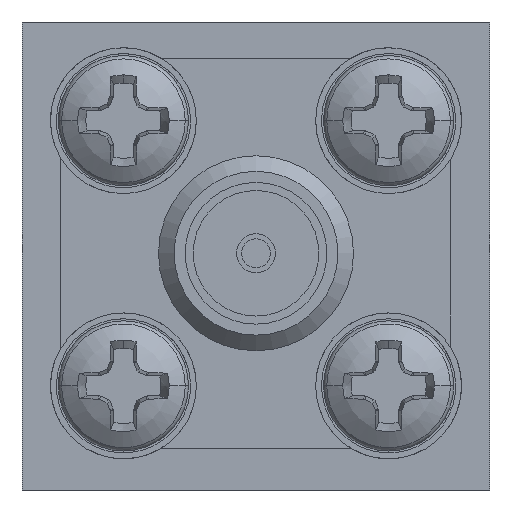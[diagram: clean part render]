
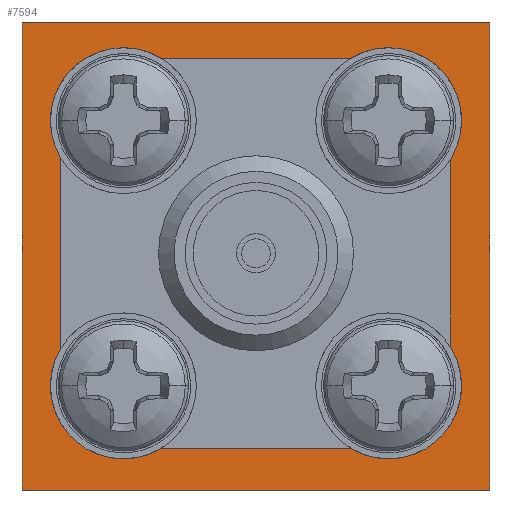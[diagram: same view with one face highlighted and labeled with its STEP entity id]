
A CAD part, left-side view. The second image highlights one B-rep face of the part: STEP entity #7594.
In plain terms, the highlighted planar face has unit normal (-1, 0, 0).
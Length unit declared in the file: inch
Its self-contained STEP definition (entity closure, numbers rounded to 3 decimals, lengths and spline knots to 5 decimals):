
#378=LINE('',#11435,#820);
#379=LINE('',#11437,#821);
#380=LINE('',#11439,#822);
#381=LINE('',#11440,#823);
#382=LINE('',#11445,#824);
#383=LINE('',#11449,#825);
#384=LINE('',#11453,#826);
#385=LINE('',#11456,#827);
#820=VECTOR('',#9052,1.);
#821=VECTOR('',#9053,1.);
#822=VECTOR('',#9054,1.);
#823=VECTOR('',#9055,1.);
#824=VECTOR('',#9058,1.);
#825=VECTOR('',#9061,1.);
#826=VECTOR('',#9064,1.);
#827=VECTOR('',#9067,1.);
#1407=FACE_BOUND('',#1884,.T.);
#1446=FACE_OUTER_BOUND('',#1883,.T.);
#1883=EDGE_LOOP('',(#4975,#4976,#4977,#4978));
#1884=EDGE_LOOP('',(#4979,#4980,#4981,#4982,#4983,#4984,#4985,#4986));
#2360=CIRCLE('',#8047,0.3125);
#2361=CIRCLE('',#8048,0.3125);
#2362=CIRCLE('',#8049,0.3125);
#2363=CIRCLE('',#8050,0.3125);
#2903=VERTEX_POINT('',#11433);
#2904=VERTEX_POINT('',#11434);
#2905=VERTEX_POINT('',#11436);
#2906=VERTEX_POINT('',#11438);
#2907=VERTEX_POINT('',#11441);
#2908=VERTEX_POINT('',#11442);
#2909=VERTEX_POINT('',#11444);
#2910=VERTEX_POINT('',#11446);
#2911=VERTEX_POINT('',#11448);
#2912=VERTEX_POINT('',#11450);
#2913=VERTEX_POINT('',#11452);
#2914=VERTEX_POINT('',#11454);
#3734=EDGE_CURVE('',#2903,#2904,#378,.T.);
#3735=EDGE_CURVE('',#2903,#2905,#379,.T.);
#3736=EDGE_CURVE('',#2906,#2905,#380,.T.);
#3737=EDGE_CURVE('',#2904,#2906,#381,.T.);
#3738=EDGE_CURVE('',#2907,#2908,#2360,.T.);
#3739=EDGE_CURVE('',#2908,#2909,#382,.T.);
#3740=EDGE_CURVE('',#2909,#2910,#2361,.T.);
#3741=EDGE_CURVE('',#2910,#2911,#383,.T.);
#3742=EDGE_CURVE('',#2911,#2912,#2362,.T.);
#3743=EDGE_CURVE('',#2912,#2913,#384,.T.);
#3744=EDGE_CURVE('',#2913,#2914,#2363,.T.);
#3745=EDGE_CURVE('',#2914,#2907,#385,.T.);
#4975=ORIENTED_EDGE('',*,*,#3734,.F.);
#4976=ORIENTED_EDGE('',*,*,#3735,.T.);
#4977=ORIENTED_EDGE('',*,*,#3736,.F.);
#4978=ORIENTED_EDGE('',*,*,#3737,.F.);
#4979=ORIENTED_EDGE('',*,*,#3738,.T.);
#4980=ORIENTED_EDGE('',*,*,#3739,.T.);
#4981=ORIENTED_EDGE('',*,*,#3740,.T.);
#4982=ORIENTED_EDGE('',*,*,#3741,.T.);
#4983=ORIENTED_EDGE('',*,*,#3742,.T.);
#4984=ORIENTED_EDGE('',*,*,#3743,.T.);
#4985=ORIENTED_EDGE('',*,*,#3744,.T.);
#4986=ORIENTED_EDGE('',*,*,#3745,.T.);
#7406=PLANE('',#8046);
#7594=ADVANCED_FACE('',(#1446,#1407),#7406,.T.);
#8046=AXIS2_PLACEMENT_3D('',#11432,#9050,#9051);
#8047=AXIS2_PLACEMENT_3D('',#11443,#9056,#9057);
#8048=AXIS2_PLACEMENT_3D('',#11447,#9059,#9060);
#8049=AXIS2_PLACEMENT_3D('',#11451,#9062,#9063);
#8050=AXIS2_PLACEMENT_3D('',#11455,#9065,#9066);
#9050=DIRECTION('center_axis',(-1.,0.,0.));
#9051=DIRECTION('ref_axis',(0.,-1.,0.));
#9052=DIRECTION('',(0.,1.,0.));
#9053=DIRECTION('',(0.,0.,1.));
#9054=DIRECTION('',(0.,-1.,0.));
#9055=DIRECTION('',(0.,0.,1.));
#9056=DIRECTION('center_axis',(1.,0.,0.));
#9057=DIRECTION('ref_axis',(0.,0.707,-0.707));
#9058=DIRECTION('',(0.,0.,1.));
#9059=DIRECTION('center_axis',(1.,0.,0.));
#9060=DIRECTION('ref_axis',(0.,0.707,0.707));
#9061=DIRECTION('',(0.,-1.,0.));
#9062=DIRECTION('center_axis',(1.,0.,0.));
#9063=DIRECTION('ref_axis',(0.,-0.707,0.707));
#9064=DIRECTION('',(0.,0.,-1.));
#9065=DIRECTION('center_axis',(1.,0.,0.));
#9066=DIRECTION('ref_axis',(0.,-0.707,-0.707));
#9067=DIRECTION('',(0.,1.,0.));
#11432=CARTESIAN_POINT('Origin',(0.,0.6,
0.));
#11433=CARTESIAN_POINT('',(0.,0.,0.));
#11434=CARTESIAN_POINT('',(0.,0.6,0.));
#11435=CARTESIAN_POINT('',(0.,0.,0.));
#11436=CARTESIAN_POINT('',(0.,0.,0.6));
#11437=CARTESIAN_POINT('',(0.,0.,0.));
#11438=CARTESIAN_POINT('',(0.,0.6,0.6));
#11439=CARTESIAN_POINT('',(0.,0.,0.6));
#11440=CARTESIAN_POINT('',(0.,0.6,0.));
#11441=CARTESIAN_POINT('',(0.,0.4875,0.0535));
#11442=CARTESIAN_POINT('',(0.,0.55,0.116));
#11443=CARTESIAN_POINT('Origin',(0.,0.3,
0.3035));
#11444=CARTESIAN_POINT('',(0.,0.55,0.491));
#11445=CARTESIAN_POINT('',(0.,0.55,0.116));
#11446=CARTESIAN_POINT('',(0.,0.4875,0.5535));
#11447=CARTESIAN_POINT('Origin',(0.,0.3,
0.3035));
#11448=CARTESIAN_POINT('',(0.,0.1125,0.5535));
#11449=CARTESIAN_POINT('',(0.,0.4875,0.5535));
#11450=CARTESIAN_POINT('',(0.,0.05,0.491));
#11451=CARTESIAN_POINT('Origin',(0.,0.3,
0.3035));
#11452=CARTESIAN_POINT('',(0.,0.05,0.116));
#11453=CARTESIAN_POINT('',(0.,0.05,0.491));
#11454=CARTESIAN_POINT('',(0.,0.1125,0.0535));
#11455=CARTESIAN_POINT('Origin',(0.,0.3,
0.3035));
#11456=CARTESIAN_POINT('',(0.,0.1125,0.0535));
